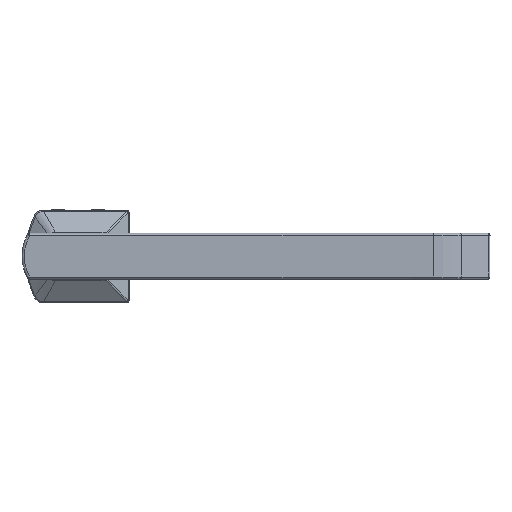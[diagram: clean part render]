
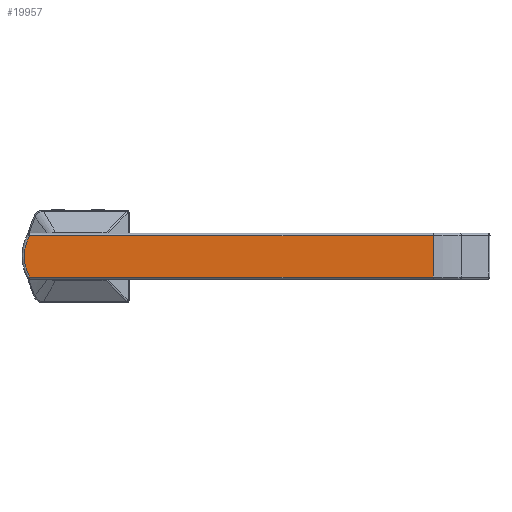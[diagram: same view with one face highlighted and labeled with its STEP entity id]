
A CAD part, top view. The second image highlights one B-rep face of the part: STEP entity #19957.
In plain terms, the highlighted planar face has unit normal (0, 0, 1).
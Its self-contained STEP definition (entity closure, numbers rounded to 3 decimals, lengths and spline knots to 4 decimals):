
#1658 = DIRECTION ( 'NONE',  ( -1., 0., 0. ) ) ;
#2181 = CARTESIAN_POINT ( 'NONE',  ( -12.3434, 1.4632, 3.4701 ) ) ;
#2987 = CARTESIAN_POINT ( 'NONE',  ( -20.6251, 0.6128, 3.4701 ) ) ;
#3288 = VECTOR ( 'NONE', #6454, 39.3701 ) ;
#3649 = PLANE ( 'NONE',  #8945 ) ;
#4004 = DIRECTION ( 'NONE',  ( 0., 0., 1. ) ) ;
#5013 = ORIENTED_EDGE ( 'NONE', *, *, #16368, .T. ) ;
#6454 = DIRECTION ( 'NONE',  ( 0., -1., 0. ) ) ;
#7420 = VECTOR ( 'NONE', #14590, 39.3701 ) ;
#7681 = VERTEX_POINT ( 'NONE', #9495 ) ;
#8278 = EDGE_CURVE ( 'NONE', #19103, #15289, #19675, .T. ) ;
#8740 = LINE ( 'NONE', #9090, #3288 ) ;
#8945 = AXIS2_PLACEMENT_3D ( 'NONE', #14344, #4004, #33133 ) ;
#9090 = CARTESIAN_POINT ( 'NONE',  ( -12.3434, 1.4632, 3.4701 ) ) ;
#9495 = CARTESIAN_POINT ( 'NONE',  ( -12.3434, 1.4632, 3.4701 ) ) ;
#12763 = VECTOR ( 'NONE', #1658, 39.3701 ) ;
#13077 = ORIENTED_EDGE ( 'NONE', *, *, #20002, .F. ) ;
#14344 = CARTESIAN_POINT ( 'NONE',  ( -16.5333, 1.038, 3.4701 ) ) ;
#14590 = DIRECTION ( 'NONE',  ( -1., 0., 0. ) ) ;
#15289 = VERTEX_POINT ( 'NONE', #2987 ) ;
#16368 = EDGE_CURVE ( 'NONE', #7681, #30307, #25672, .T. ) ;
#17377 = CIRCLE ( 'NONE', #24640, 0.8976 ) ;
#17523 = DIRECTION ( 'NONE',  ( 0., 0., -1. ) ) ;
#18763 = ORIENTED_EDGE ( 'NONE', *, *, #8278, .F. ) ;
#19103 = VERTEX_POINT ( 'NONE', #25159 ) ;
#19675 = LINE ( 'NONE', #19848, #7420 ) ;
#19848 = CARTESIAN_POINT ( 'NONE',  ( -12.3434, 0.6128, 3.4701 ) ) ;
#19957 = ADVANCED_FACE ( 'NONE', ( #24707 ), #3649, .T. ) ;
#20002 = EDGE_CURVE ( 'NONE', #15289, #30307, #17377, .T. ) ;
#20840 = CARTESIAN_POINT ( 'NONE',  ( -19.8345, 1.038, 3.4701 ) ) ;
#21740 = EDGE_CURVE ( 'NONE', #7681, #19103, #8740, .T. ) ;
#21791 = ORIENTED_EDGE ( 'NONE', *, *, #21740, .F. ) ;
#24640 = AXIS2_PLACEMENT_3D ( 'NONE', #20840, #17523, #30848 ) ;
#24707 = FACE_OUTER_BOUND ( 'NONE', #31233, .T. ) ;
#25159 = CARTESIAN_POINT ( 'NONE',  ( -12.3434, 0.6128, 3.4701 ) ) ;
#25672 = LINE ( 'NONE', #2181, #12763 ) ;
#26718 = CARTESIAN_POINT ( 'NONE',  ( -20.6251, 1.4632, 3.4701 ) ) ;
#30307 = VERTEX_POINT ( 'NONE', #26718 ) ;
#30848 = DIRECTION ( 'NONE',  ( -0.881, -0.474, 0. ) ) ;
#31233 = EDGE_LOOP ( 'NONE', ( #5013, #13077, #18763, #21791 ) ) ;
#33133 = DIRECTION ( 'NONE',  ( -1., 0., 0. ) ) ;
